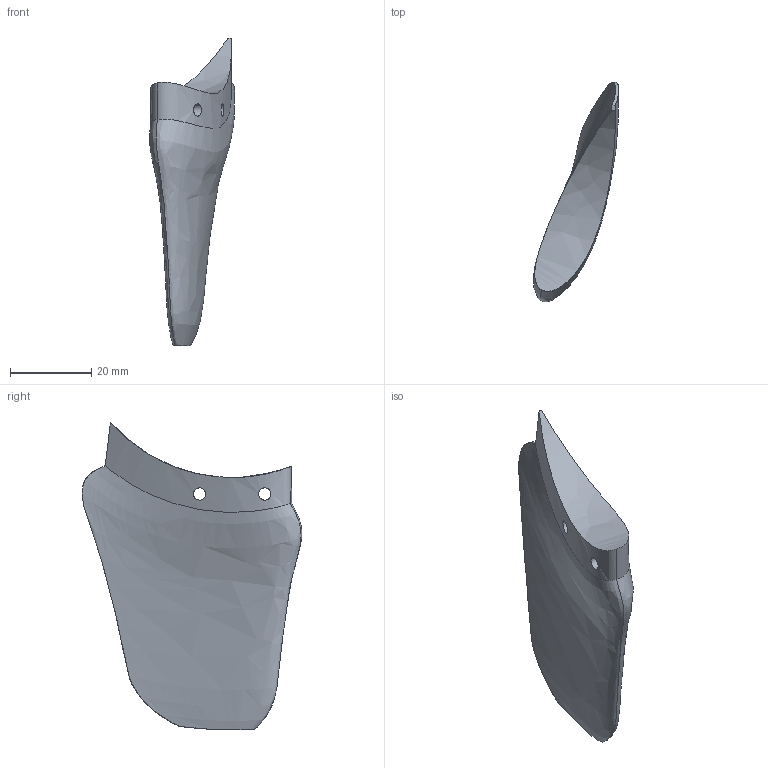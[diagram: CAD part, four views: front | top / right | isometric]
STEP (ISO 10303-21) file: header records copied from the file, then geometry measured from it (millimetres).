
FILE_DESCRIPTION(('Open CASCADE Model'),'2;1');
FILE_NAME('Open CASCADE Shape Model','2026-10-31T23:31:01',('Author'),( 'Open CASCADE'),'Open CASCADE STEP processor 7.9','Open CASCADE 7.9' ,'Unknown');
FILE_SCHEMA(('AUTOMOTIVE_DESIGN { 1 0 10303 214 1 1 1 1 }'));
Length unit declared in the file: millimetre
Products named in the file (1): Open CASCADE STEP translator 7.9 22
Bounding box: 20.88 x 53.96 x 75.53 mm (x, y, z)
Volume: 17380.8 mm3; surface area: 6756.8 mm2
Topology: 1 solids, 1 shells, 10 faces, 21 edges, 13 vertices
Faces by surface type: bspline 8, cylinder 2
Full cylindrical faces by diameter (mm): 3 x2
Entity records: 6895 total; most frequent: CARTESIAN_POINT 6526, ORIENTED_EDGE 42, PCURVE 42, DEFINITIONAL_REPRESENTATION 42, DIRECTION 36, B_SPLINE_CURVE_WITH_KNOTS 30, LINE 30, VECTOR 30
